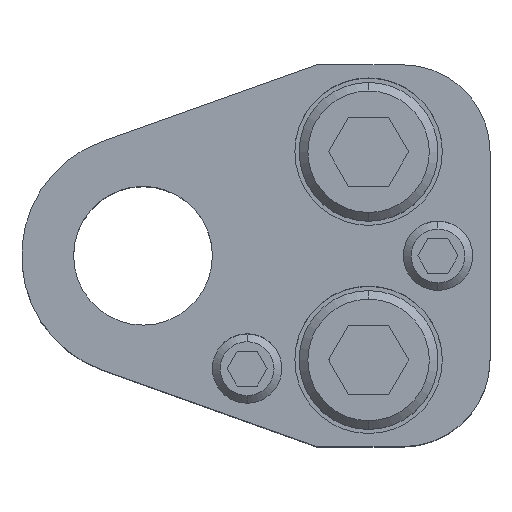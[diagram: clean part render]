
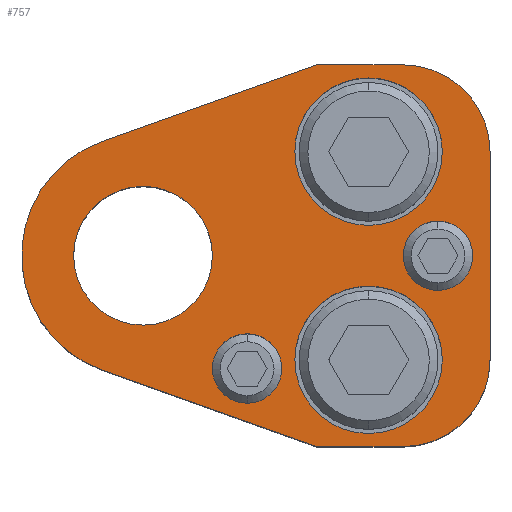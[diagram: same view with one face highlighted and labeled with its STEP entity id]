
A CAD part, top view. The second image highlights one B-rep face of the part: STEP entity #757.
In plain terms, the highlighted planar face has unit normal (0, 0, 1).
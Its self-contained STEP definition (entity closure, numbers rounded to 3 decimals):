
#428=LINE('',#3648,#598);
#433=LINE('',#3663,#603);
#437=LINE('',#3675,#607);
#442=LINE('',#3684,#612);
#447=LINE('',#3698,#617);
#598=VECTOR('',#2943,1.);
#603=VECTOR('',#2956,1.);
#607=VECTOR('',#2968,1.);
#612=VECTOR('',#2975,1.);
#617=VECTOR('',#2988,1.);
#757=ADVANCED_FACE('',(#863,#864,#865,#866,#867,#868),#834,.T.);
#834=PLANE('',#2455);
#863=FACE_BOUND('',#1003,.T.);
#864=FACE_BOUND('',#1004,.T.);
#865=FACE_BOUND('',#1005,.T.);
#866=FACE_BOUND('',#1006,.T.);
#867=FACE_BOUND('',#1007,.T.);
#868=FACE_BOUND('',#1008,.T.);
#1003=EDGE_LOOP('',(#1518,#1519,#1520,#1521,#1522,#1523,#1524,#1525));
#1004=EDGE_LOOP('',(#1526,#1527));
#1005=EDGE_LOOP('',(#1528,#1529));
#1006=EDGE_LOOP('',(#1530,#1531));
#1007=EDGE_LOOP('',(#1532,#1533));
#1008=EDGE_LOOP('',(#1534,#1535));
#1518=ORIENTED_EDGE('',*,*,#2038,.T.);
#1519=ORIENTED_EDGE('',*,*,#2020,.T.);
#1520=ORIENTED_EDGE('',*,*,#2024,.T.);
#1521=ORIENTED_EDGE('',*,*,#2027,.T.);
#1522=ORIENTED_EDGE('',*,*,#2030,.T.);
#1523=ORIENTED_EDGE('',*,*,#2033,.T.);
#1524=ORIENTED_EDGE('',*,*,#2045,.T.);
#1525=ORIENTED_EDGE('',*,*,#2041,.T.);
#1526=ORIENTED_EDGE('',*,*,#2080,.F.);
#1527=ORIENTED_EDGE('',*,*,#2081,.F.);
#1528=ORIENTED_EDGE('',*,*,#2082,.F.);
#1529=ORIENTED_EDGE('',*,*,#2083,.F.);
#1530=ORIENTED_EDGE('',*,*,#2070,.F.);
#1531=ORIENTED_EDGE('',*,*,#2066,.F.);
#1532=ORIENTED_EDGE('',*,*,#2064,.F.);
#1533=ORIENTED_EDGE('',*,*,#2060,.F.);
#1534=ORIENTED_EDGE('',*,*,#2084,.T.);
#1535=ORIENTED_EDGE('',*,*,#2085,.T.);
#1757=VERTEX_POINT('',#3647);
#1758=VERTEX_POINT('',#3649);
#1761=VERTEX_POINT('',#3656);
#1763=VERTEX_POINT('',#3662);
#1765=VERTEX_POINT('',#3668);
#1767=VERTEX_POINT('',#3674);
#1771=VERTEX_POINT('',#3685);
#1773=VERTEX_POINT('',#3691);
#1787=VERTEX_POINT('',#3733);
#1788=VERTEX_POINT('',#3734);
#1791=VERTEX_POINT('',#3745);
#1792=VERTEX_POINT('',#3746);
#1799=VERTEX_POINT('',#3773);
#1800=VERTEX_POINT('',#3774);
#1801=VERTEX_POINT('',#3777);
#1802=VERTEX_POINT('',#3778);
#1803=VERTEX_POINT('',#3781);
#1804=VERTEX_POINT('',#3782);
#2020=EDGE_CURVE('',#1758,#1757,#428,.T.);
#2024=EDGE_CURVE('',#1757,#1761,#2191,.T.);
#2027=EDGE_CURVE('',#1761,#1763,#433,.T.);
#2030=EDGE_CURVE('',#1763,#1765,#2193,.T.);
#2033=EDGE_CURVE('',#1765,#1767,#437,.T.);
#2038=EDGE_CURVE('',#1771,#1758,#442,.T.);
#2041=EDGE_CURVE('',#1773,#1771,#2196,.T.);
#2045=EDGE_CURVE('',#1767,#1773,#447,.T.);
#2060=EDGE_CURVE('',#1787,#1788,#2205,.T.);
#2064=EDGE_CURVE('',#1788,#1787,#2207,.T.);
#2066=EDGE_CURVE('',#1791,#1792,#2209,.T.);
#2070=EDGE_CURVE('',#1792,#1791,#2211,.T.);
#2080=EDGE_CURVE('',#1799,#1800,#2217,.T.);
#2081=EDGE_CURVE('',#1800,#1799,#2218,.T.);
#2082=EDGE_CURVE('',#1801,#1802,#2219,.T.);
#2083=EDGE_CURVE('',#1802,#1801,#2220,.T.);
#2084=EDGE_CURVE('',#1803,#1804,#2221,.T.);
#2085=EDGE_CURVE('',#1804,#1803,#2222,.T.);
#2191=CIRCLE('',#2406,10.);
#2193=CIRCLE('',#2410,10.);
#2196=CIRCLE('',#2416,14.);
#2205=CIRCLE('',#2429,4.);
#2207=CIRCLE('',#2432,4.);
#2209=CIRCLE('',#2435,4.);
#2211=CIRCLE('',#2438,4.);
#2217=CIRCLE('',#2449,8.5);
#2218=CIRCLE('',#2450,8.5);
#2219=CIRCLE('',#2451,8.5);
#2220=CIRCLE('',#2452,8.5);
#2221=CIRCLE('',#2453,8.);
#2222=CIRCLE('',#2454,8.);
#2406=AXIS2_PLACEMENT_3D('',#3657,#2949,#2950);
#2410=AXIS2_PLACEMENT_3D('',#3669,#2961,#2962);
#2416=AXIS2_PLACEMENT_3D('',#3690,#2981,#2982);
#2429=AXIS2_PLACEMENT_3D('',#3732,#3016,#3017);
#2432=AXIS2_PLACEMENT_3D('',#3741,#3024,#3025);
#2435=AXIS2_PLACEMENT_3D('',#3744,#3030,#3031);
#2438=AXIS2_PLACEMENT_3D('',#3753,#3038,#3039);
#2449=AXIS2_PLACEMENT_3D('',#3772,#3064,#3065);
#2450=AXIS2_PLACEMENT_3D('',#3775,#3066,#3067);
#2451=AXIS2_PLACEMENT_3D('',#3776,#3068,#3069);
#2452=AXIS2_PLACEMENT_3D('',#3779,#3070,#3071);
#2453=AXIS2_PLACEMENT_3D('',#3780,#3072,#3073);
#2454=AXIS2_PLACEMENT_3D('',#3783,#3074,#3075);
#2455=AXIS2_PLACEMENT_3D('',#3784,#3076,#3077);
#2943=DIRECTION('',(1.,0.,0.));
#2949=DIRECTION('',(0.,0.,1.));
#2950=DIRECTION('',(-0.707,0.707,0.));
#2956=DIRECTION('',(0.,1.,0.));
#2961=DIRECTION('',(0.,0.,1.));
#2962=DIRECTION('',(-0.707,-0.707,0.));
#2968=DIRECTION('',(-1.,0.,0.));
#2975=DIRECTION('',(0.942,-0.336,0.));
#2981=DIRECTION('',(0.,0.,1.));
#2982=DIRECTION('',(1.,0.,0.));
#2988=DIRECTION('',(-0.942,-0.336,0.));
#3016=DIRECTION('',(0.,0.,1.));
#3017=DIRECTION('',(-1.,0.,0.));
#3024=DIRECTION('',(0.,0.,1.));
#3025=DIRECTION('',(1.,0.,0.));
#3030=DIRECTION('',(0.,0.,1.));
#3031=DIRECTION('',(-1.,0.,0.));
#3038=DIRECTION('',(0.,0.,1.));
#3039=DIRECTION('',(1.,0.,0.));
#3064=DIRECTION('',(0.,0.,1.));
#3065=DIRECTION('',(1.,0.,0.));
#3066=DIRECTION('',(0.,0.,1.));
#3067=DIRECTION('',(-1.,0.,0.));
#3068=DIRECTION('',(0.,0.,1.));
#3069=DIRECTION('',(1.,0.,0.));
#3070=DIRECTION('',(0.,0.,1.));
#3071=DIRECTION('',(-1.,0.,0.));
#3072=DIRECTION('',(0.,0.,-1.));
#3073=DIRECTION('',(-1.,0.,0.));
#3074=DIRECTION('',(0.,0.,-1.));
#3075=DIRECTION('',(1.,0.,0.));
#3076=DIRECTION('',(0.,0.,1.));
#3077=DIRECTION('',(0.942,-0.336,0.));
#3647=CARTESIAN_POINT('',(30.,-22.,35.));
#3648=CARTESIAN_POINT('',(20.,-22.,35.));
#3649=CARTESIAN_POINT('',(20.,-22.,35.));
#3656=CARTESIAN_POINT('',(40.,-12.,35.));
#3657=CARTESIAN_POINT('',(30.,-12.,35.));
#3662=CARTESIAN_POINT('',(40.,12.,35.));
#3663=CARTESIAN_POINT('',(40.,12.,35.));
#3668=CARTESIAN_POINT('',(30.,22.,35.));
#3669=CARTESIAN_POINT('',(30.,12.,35.));
#3674=CARTESIAN_POINT('',(20.,22.,35.));
#3675=CARTESIAN_POINT('',(20.,22.,35.));
#3684=CARTESIAN_POINT('',(20.,-22.,35.));
#3685=CARTESIAN_POINT('',(-4.704,-13.186,35.));
#3690=CARTESIAN_POINT('',(0.,0.,35.));
#3691=CARTESIAN_POINT('',(-4.704,13.186,35.));
#3698=CARTESIAN_POINT('',(20.,22.,35.));
#3732=CARTESIAN_POINT('',(12.,-13.,35.));
#3733=CARTESIAN_POINT('',(12.,-17.,35.));
#3734=CARTESIAN_POINT('',(12.,-9.,35.));
#3741=CARTESIAN_POINT('',(12.,-13.,35.));
#3744=CARTESIAN_POINT('',(34.,0.,35.));
#3745=CARTESIAN_POINT('',(34.,-4.,35.));
#3746=CARTESIAN_POINT('',(34.,4.,35.));
#3753=CARTESIAN_POINT('',(34.,0.,35.));
#3772=CARTESIAN_POINT('',(26.,12.,35.));
#3773=CARTESIAN_POINT('',(26.,20.5,35.));
#3774=CARTESIAN_POINT('',(26.,3.5,35.));
#3775=CARTESIAN_POINT('',(26.,12.,35.));
#3776=CARTESIAN_POINT('',(26.,-12.,35.));
#3777=CARTESIAN_POINT('',(26.,-3.5,35.));
#3778=CARTESIAN_POINT('',(26.,-20.5,35.));
#3779=CARTESIAN_POINT('',(26.,-12.,35.));
#3780=CARTESIAN_POINT('',(0.,0.,35.));
#3781=CARTESIAN_POINT('',(0.,8.,35.));
#3782=CARTESIAN_POINT('',(0.,-8.,35.));
#3783=CARTESIAN_POINT('',(0.,0.,35.));
#3784=CARTESIAN_POINT('',(-4.704,-13.186,35.));
